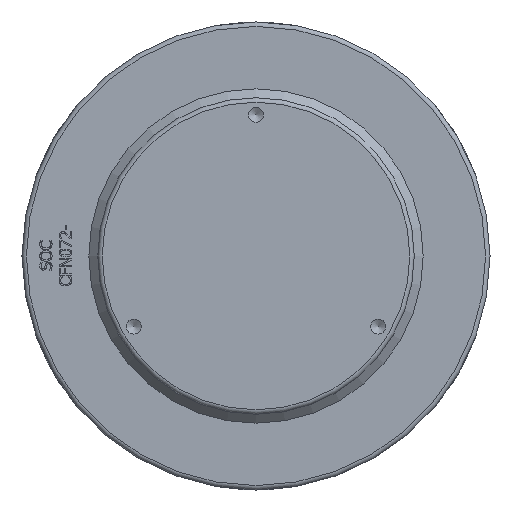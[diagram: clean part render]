
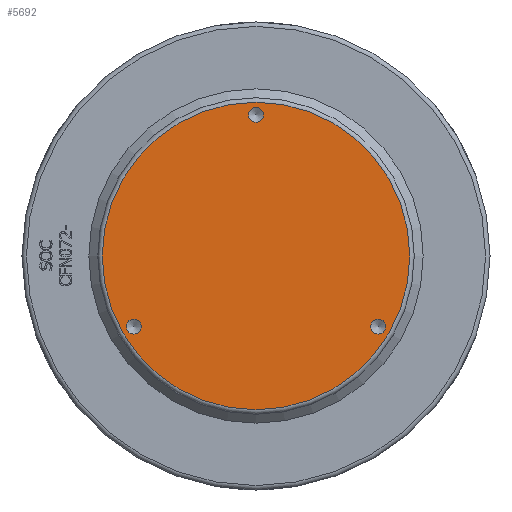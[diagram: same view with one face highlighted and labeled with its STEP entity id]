
A CAD part, front view. The second image highlights one B-rep face of the part: STEP entity #5692.
In plain terms, the highlighted planar face has unit normal (0, -1, 0) as drawn and (0, 1, 0) by its records, which use the part's own axes.
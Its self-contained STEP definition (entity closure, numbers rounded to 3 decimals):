
#1549=PLANE('',#5994);
#1630=FACE_BOUND('',#2180,.T.);
#1631=FACE_BOUND('',#2181,.T.);
#1632=FACE_BOUND('',#2182,.T.);
#1837=FACE_OUTER_BOUND('',#2179,.T.);
#2179=EDGE_LOOP('',(#4653));
#2180=EDGE_LOOP('',(#4654));
#2181=EDGE_LOOP('',(#4655));
#2182=EDGE_LOOP('',(#4656));
#2391=CIRCLE('',#5919,5.053);
#2393=CIRCLE('',#5923,5.053);
#2395=CIRCLE('',#5927,5.053);
#2397=CIRCLE('',#5992,103.5);
#2417=VERTEX_POINT('',#6948);
#2419=VERTEX_POINT('',#6954);
#2421=VERTEX_POINT('',#6960);
#2693=VERTEX_POINT('',#8892);
#2993=EDGE_CURVE('',#2417,#2417,#2391,.T.);
#2995=EDGE_CURVE('',#2419,#2419,#2393,.T.);
#2997=EDGE_CURVE('',#2421,#2421,#2395,.T.);
#3404=EDGE_CURVE('',#2693,#2693,#2397,.T.);
#4653=ORIENTED_EDGE('',*,*,#3404,.F.);
#4654=ORIENTED_EDGE('',*,*,#2993,.T.);
#4655=ORIENTED_EDGE('',*,*,#2995,.T.);
#4656=ORIENTED_EDGE('',*,*,#2997,.T.);
#5692=ADVANCED_FACE('',(#1837,#1630,#1631,#1632),#1549,.T.);
#5919=AXIS2_PLACEMENT_3D('',#6949,#6111,#6112);
#5923=AXIS2_PLACEMENT_3D('',#6955,#6119,#6120);
#5927=AXIS2_PLACEMENT_3D('',#6961,#6127,#6128);
#5992=AXIS2_PLACEMENT_3D('',#8893,#6492,#6493);
#5994=AXIS2_PLACEMENT_3D('',#8896,#6496,#6497);
#6111=DIRECTION('center_axis',(0.,-1.,0.));
#6112=DIRECTION('ref_axis',(-0.5,0.,-0.866));
#6119=DIRECTION('center_axis',(0.,-1.,0.));
#6120=DIRECTION('ref_axis',(-0.5,0.,0.866));
#6127=DIRECTION('center_axis',(0.,-1.,0.));
#6128=DIRECTION('ref_axis',(1.,0.,0.));
#6492=DIRECTION('center_axis',(0.,-1.,0.));
#6493=DIRECTION('ref_axis',(-1.,0.,0.));
#6496=DIRECTION('center_axis',(0.,1.,0.));
#6497=DIRECTION('ref_axis',(0.,0.,1.));
#6948=CARTESIAN_POINT('',(79.746,189.,-51.876));
#6949=CARTESIAN_POINT('Origin',(82.272,189.,-47.5));
#6954=CARTESIAN_POINT('',(-84.799,189.,-43.124));
#6955=CARTESIAN_POINT('Origin',(-82.272,189.,-47.5));
#6960=CARTESIAN_POINT('',(5.053,189.,95.));
#6961=CARTESIAN_POINT('Origin',(0.,189.,95.));
#8892=CARTESIAN_POINT('',(103.5,189.,0.));
#8893=CARTESIAN_POINT('Origin',(0.,189.,0.));
#8896=CARTESIAN_POINT('Origin',(106.5,189.,0.));
